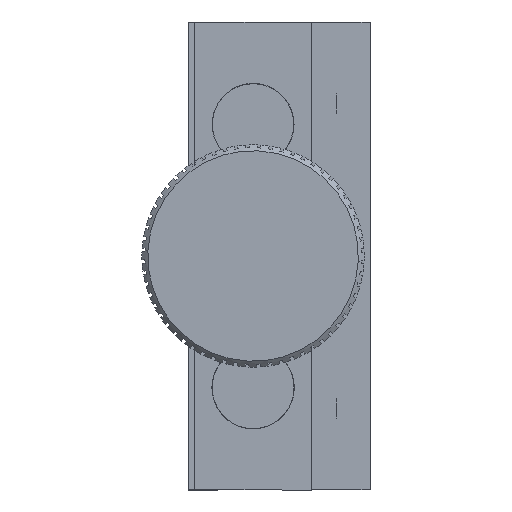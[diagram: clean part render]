
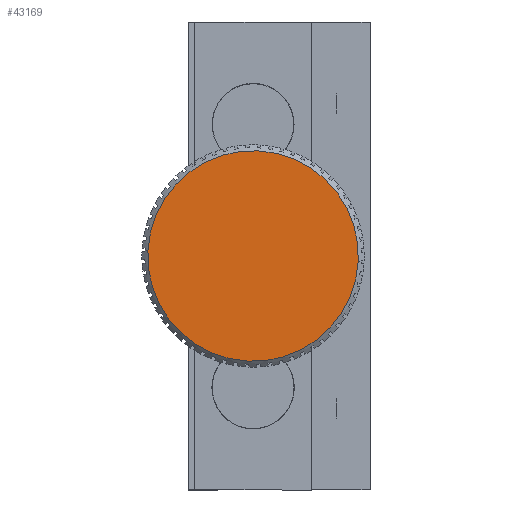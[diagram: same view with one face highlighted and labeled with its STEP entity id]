
A CAD part, left-side view. The second image highlights one B-rep face of the part: STEP entity #43169.
In plain terms, the highlighted planar face has unit normal (-1, 0, 0) as drawn and (1, 0, 0) by its records, which use the part's own axes.
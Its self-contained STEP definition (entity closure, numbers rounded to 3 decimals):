
#4254 = DIRECTION ( 'NONE',  ( 0., 0., -1. ) ) ;
#9107 = VERTEX_POINT ( 'NONE', #45400 ) ;
#18742 = DIRECTION ( 'NONE',  ( 1., 0., 0. ) ) ;
#20449 = AXIS2_PLACEMENT_3D ( 'NONE', #24283, #42650, #34071 ) ;
#22251 = AXIS2_PLACEMENT_3D ( 'NONE', #55203, #18742, #4254 ) ;
#24283 = CARTESIAN_POINT ( 'NONE',  ( 81.5, 20., 0. ) ) ;
#27375 = EDGE_LOOP ( 'NONE', ( #51435, #48705 ) ) ;
#27548 = PLANE ( 'NONE',  #22251 ) ;
#27813 = CIRCLE ( 'NONE', #54090, 18. ) ;
#29121 = CARTESIAN_POINT ( 'NONE',  ( 81.5, 20., 0. ) ) ;
#32071 = VERTEX_POINT ( 'NONE', #53021 ) ;
#33785 = DIRECTION ( 'NONE',  ( 0., 0., 1. ) ) ;
#34071 = DIRECTION ( 'NONE',  ( 0., 0., 1. ) ) ;
#36019 = FACE_OUTER_BOUND ( 'NONE', #27375, .T. ) ;
#42485 = CIRCLE ( 'NONE', #20449, 18. ) ;
#42650 = DIRECTION ( 'NONE',  ( 1., 0., 0. ) ) ;
#43169 = ADVANCED_FACE ( 'NONE', ( #36019 ), #27548, .T. ) ;
#45400 = CARTESIAN_POINT ( 'NONE',  ( 81.5, 20., 18. ) ) ;
#48705 = ORIENTED_EDGE ( 'NONE', *, *, #49107, .T. ) ;
#49107 = EDGE_CURVE ( 'NONE', #32071, #9107, #42485, .T. ) ;
#51435 = ORIENTED_EDGE ( 'NONE', *, *, #58643, .T. ) ;
#52526 = DIRECTION ( 'NONE',  ( 1., 0., 0. ) ) ;
#53021 = CARTESIAN_POINT ( 'NONE',  ( 81.5, 20., -18. ) ) ;
#54090 = AXIS2_PLACEMENT_3D ( 'NONE', #29121, #52526, #33785 ) ;
#55203 = CARTESIAN_POINT ( 'NONE',  ( 81.5, 20., 0. ) ) ;
#58643 = EDGE_CURVE ( 'NONE', #9107, #32071, #27813, .T. ) ;
